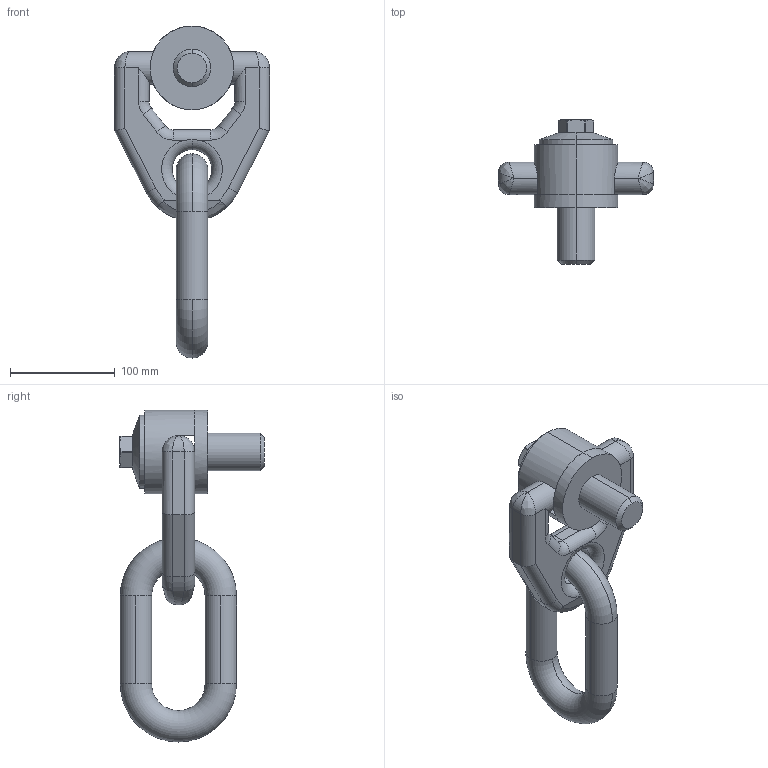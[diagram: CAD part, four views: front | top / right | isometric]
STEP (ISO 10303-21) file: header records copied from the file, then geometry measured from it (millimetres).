
FILE_DESCRIPTION (( 'STEP AP203' ), '1' );
FILE_NAME ('63150.W0036.step', '2013-12-13T11:53:17', ( 'User' ), ( '' ), 'SwSTEP 2.0', 'SolidWorks 2009', '' );
FILE_SCHEMA (( 'CONFIG_CONTROL_DESIGN' ));
Length unit declared in the file: millimetre
Products named in the file (4): Part1_63150.W0036; Part2D; Part3_63150.W0036; 63150.W0036
Assembly tree (3 placements, depth 2):
  63150.W0036
    Part1_63150.W0036
    Part2D
    Part3_63150.W0036
Bounding box: 148 x 138 x 317 mm (x, y, z)
Volume: 1015057.3 mm3; surface area: 126944.8 mm2
Topology: 3 solids, 3 shells, 131 faces, 322 edges, 194 vertices
Faces by surface type: cylinder 50, plane 39, torus 24, cone 10, bspline 8
Entity records: 5644 total; most frequent: CARTESIAN_POINT 2141, DIRECTION 686, ORIENTED_EDGE 644, EDGE_CURVE 322, AXIS2_PLACEMENT_3D 279, VERTEX_POINT 194, CIRCLE 150, EDGE_LOOP 134
